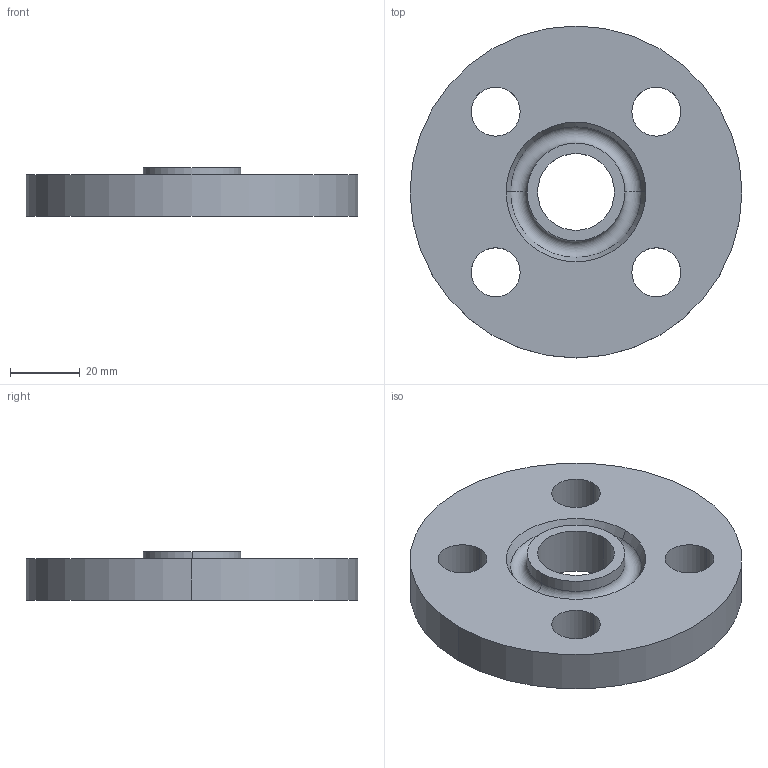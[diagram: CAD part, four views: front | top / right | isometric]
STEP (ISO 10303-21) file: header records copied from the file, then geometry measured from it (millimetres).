
FILE_DESCRIPTION (( 'STEP AP214' ), '1' );
FILE_NAME ('PN40 DN15 Type 01 - Type H Face.STEP', '2018-12-29T15:11:04', ( '' ), ( '' ), 'SwSTEP 2.0', 'SolidWorks 2019', '' );
FILE_SCHEMA (( 'AUTOMOTIVE_DESIGN' ));
Length unit declared in the file: millimetre
Products named in the file (1): PN40 DN15 Type 01 - Type H Face
Bounding box: 95 x 95 x 14 mm (x, y, z)
Volume: 71655.2 mm3; surface area: 19542.1 mm2
Topology: 1 solids, 1 shells, 21 faces, 50 edges, 32 vertices
Faces by surface type: cylinder 14, plane 3, torus 2, cone 2
Entity records: 680 total; most frequent: DIRECTION 128, CARTESIAN_POINT 104, ORIENTED_EDGE 100, AXIS2_PLACEMENT_3D 56, EDGE_CURVE 50, CIRCLE 34, VERTEX_POINT 32, EDGE_LOOP 32
